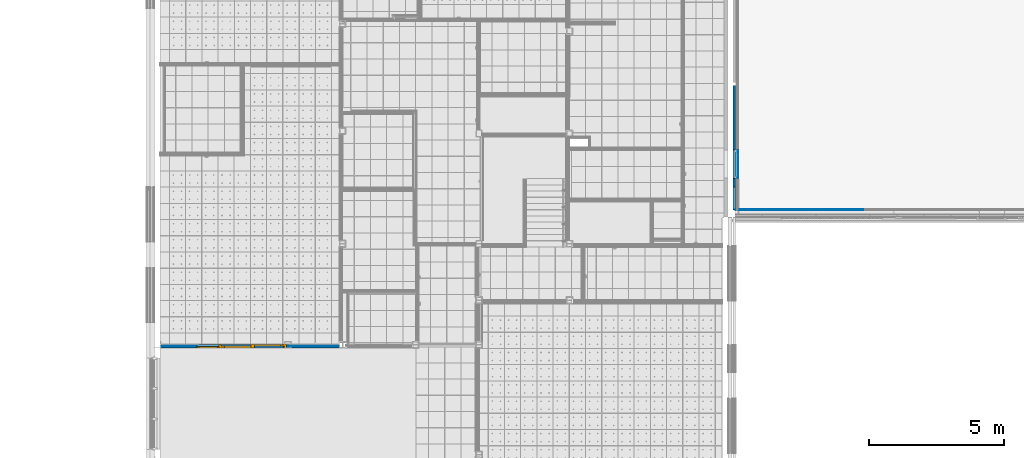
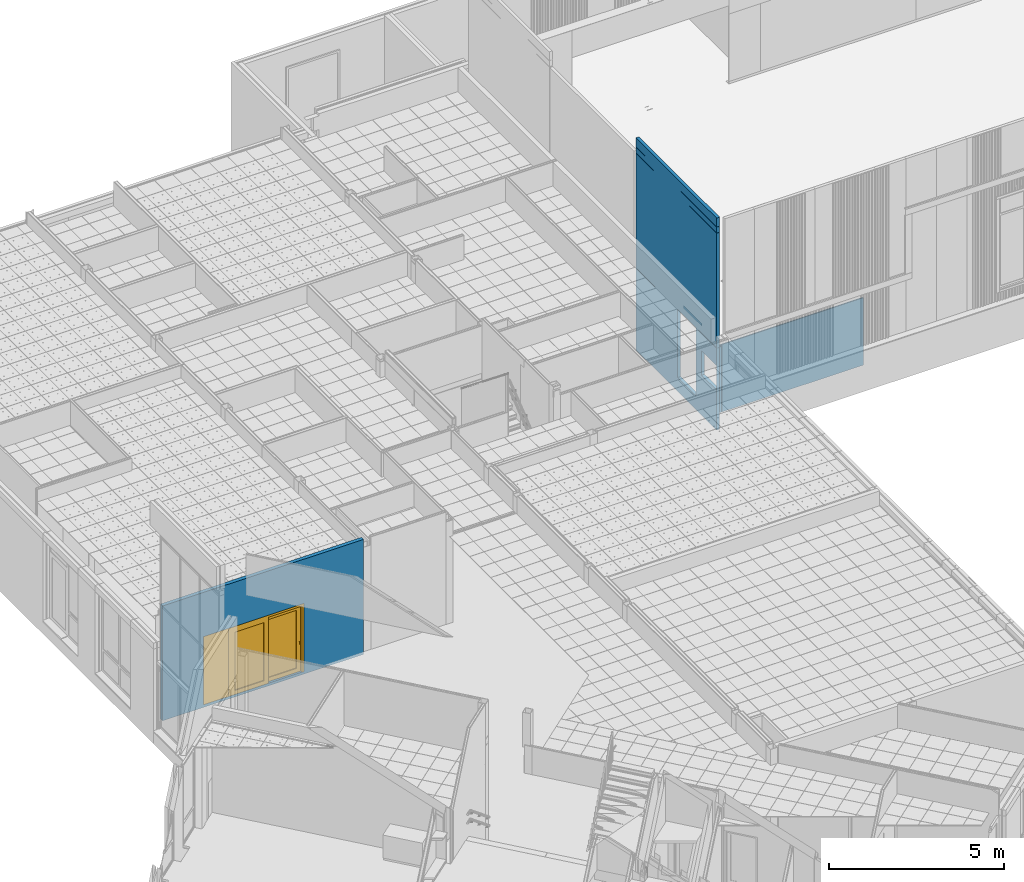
# One storey, part 44 of 338: 4 walls, 1 door, 1 window, 3 openings.
"""IFC2X3 building model written with IfcOpenShell, lengths in millimetres."""

from ifc_helpers import new_model, entity, si_unit, converted_unit, derived_unit, money_unit, direction, frame, origin_with_axes, place, context, subcontext, project, spatial, open_shell, faceted_brep, surface_model, material, type_object, element, fill, save


model = new_model("IFC2X3")

# Units and contexts
model_context = context("Model", 3, precision=0.01, world=origin_with_axes(), true_north=direction((0.0, 1.0)))
plan_context = context("Plan", 3, precision=0.01, world=origin_with_axes(), true_north=direction((0.0, 1.0)))
body_context = subcontext(model_context, "Body", "Model", "MODEL_VIEW")
ifc_project = project(units=[si_unit("LENGTHUNIT", "METRE", prefix="MILLI"), si_unit("AREAUNIT", "SQUARE_METRE"), si_unit("VOLUMEUNIT", "CUBIC_METRE"), converted_unit("PLANEANGLEUNIT", "DEGREE", entity("IfcPlaneAngleMeasure", 0.0174532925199), si_unit("PLANEANGLEUNIT", "RADIAN"), dimensions=[0, 0, 0, 0, 0, 0, 0]), money_unit("EUR"), converted_unit("TIMEUNIT", "Year", entity("IfcTimeMeasure", 31556926.0), si_unit("TIMEUNIT", "SECOND"), dimensions=[0, 0, 1, 0, 0, 0, 0]), si_unit("MASSUNIT", "GRAM", prefix="KILO"), si_unit("THERMODYNAMICTEMPERATUREUNIT", "DEGREE_CELSIUS"), si_unit("LUMINOUSINTENSITYUNIT", "LUMEN"), si_unit("ENERGYUNIT", "JOULE", prefix="MEGA"), derived_unit("THERMALCONDUCTANCEUNIT", [(si_unit("POWERUNIT", "WATT"), 1), (si_unit("LENGTHUNIT", "METRE"), -1), (si_unit("THERMODYNAMICTEMPERATUREUNIT", "KELVIN"), -1)]), derived_unit("SPECIFICHEATCAPACITYUNIT", [(si_unit("ENERGYUNIT", "JOULE"), 1), (si_unit("MASSUNIT", "GRAM", prefix="KILO"), -1), (si_unit("THERMODYNAMICTEMPERATUREUNIT", "KELVIN"), -1)]), derived_unit("MASSDENSITYUNIT", [(si_unit("MASSUNIT", "GRAM", prefix="KILO"), 1), (si_unit("VOLUMEUNIT", "CUBIC_METRE"), -1)])], contexts=[model_context, plan_context])

# Site, building, storey
site_placement = place(None, origin_with_axes())
site = spatial("IfcSite", under=ifc_project, at=site_placement, Name="Fortuinstraat Woensdrecht", CompositionType="ELEMENT")
building_placement = place(site_placement, origin_with_axes())
building = spatial("IfcBuilding", under=site, at=building_placement, Name="IKC Fortuna", CompositionType="ELEMENT")
storey_placement = place(building_placement, origin_with_axes())
storey = spatial("IfcBuildingStorey", under=building, at=storey_placement, Name="00 begane grond", CompositionType="ELEMENT", Elevation=0.0)

# Wall, opening
ifc_material_1 = material(Name="Steen - Kalkzandsteen C")
wall_type_1 = type_object("IfcWallType", Name="Steen - Kalkzandsteen C 100", PredefinedType="NOTDEFINED")
wall_1_placement = place(storey_placement, frame((35013.4270571, 25778.2966282, -485.0), z_axis=(0.0, 0.0, 1.0), x_axis=(0.0, -1.0, 0.0)))
wall_1 = element("IfcWall", 1, at=wall_1_placement, inside=storey, type_object=wall_type_1, material=ifc_material_1, Name="22_Wand_KZST", context=body_context, shape_type="Brep", body=[
    faceted_brep([(0.0, 0.0, 7065.8), (0.0, 30.050000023, 7065.8), (0.0, 38.5352813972, 7062.28528137), (0.0, 42.050000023, 7053.8), (0.0, 42.050000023, 6876.2), (0.0, 38.5352813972, 6867.71471863), (0.0, 30.050000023, 6864.2), (0.0, 0.0, 6864.2), (4610.99999998, 30.050000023, 7065.8), (4610.99999998, 0.0, 7065.8), (4610.99999998, 38.5352813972, 7062.28528137), (4610.99999998, 42.050000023, 7053.8), (4610.99999998, 42.050000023, 6876.2), (4610.99999998, 38.5352813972, 6867.71471863), (4610.99999998, 30.050000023, 6864.2), (4610.99999998, 0.0, 6864.2)], [[[0, 1, 2, 3, 4, 5, 6, 7]], [[8, 1, 0, 9]], [[10, 2, 1, 8]], [[11, 3, 2, 10]], [[12, 4, 3, 11]], [[13, 5, 4, 12]], [[14, 6, 5, 13]], [[15, 7, 6, 14]], [[15, 9, 0, 7]], [[10, 8, 9, 15, 14, 13, 12, 11]]]),
    faceted_brep([(2386.8, 0.0, 2852.0), (2386.8, 79.0, 2852.0), (2386.8, 100.000000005, 2852.0), (71.9999999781, 100.0, 2852.0), (71.9999999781, 0.0, 2852.0), (2386.8, 0.0, 485.0), (2386.8, 100.0, 485.0), (3434.8, 100.0, 485.0), (3434.8, 100.000000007, 2852.0), (4610.99999998, 100.00000001, 2852.0), (4610.99999998, 100.0, 0.0), (0.0, 100.0, 0.0), (0.0, 100.000000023, 6855.0), (4610.99999998, 100.000000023, 6855.0), (4610.99999998, 100.00000001, 2859.52932063), (71.9999999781, 100.0, 2859.52932063), (4591.99999998, 100.0, 1395.0), (4591.99999998, 100.0, 2237.0), (3749.99999998, 100.0, 2237.0), (3749.99999998, 100.0, 1395.0), (71.9999999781, 98.6462040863, 2859.0), (71.9999999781, 1.35379595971, 2859.0), (71.9999999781, 0.0, 2859.52932064), (4610.99999998, 0.0, 2859.52932064), (4610.99999998, 0.0, 6855.0), (0.0, 0.0, 6855.0), (0.0, 0.0, 0.0), (4610.99999998, 0.0, 0.0), (4610.99999998, 0.0, 2852.0), (3434.8, 0.0, 2852.0), (3434.8, 0.0, 485.0), (4591.99999998, 0.0, 1395.0), (3749.99999998, 0.0, 1395.0), (3749.99999998, 0.0, 2237.0), (4591.99999998, 0.0, 2237.0), (3434.8, 79.0, 2852.0), (4610.99999998, 1.35379595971, 2859.0), (4610.99999998, 98.6462040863, 2859.0)], [[[0, 1, 2, 3, 4]], [[1, 0, 5, 6, 2]], [[3, 2, 6, 7, 8, 9, 10, 11, 12, 13, 14, 15], [16, 17, 18, 19]], [[4, 3, 15, 20, 21, 22]], [[5, 0, 4, 22, 23, 24, 25, 26, 27, 28, 29, 30], [31, 32, 33, 34]], [[5, 30, 7, 6]], [[30, 29, 35, 8, 7]], [[35, 29, 28, 9, 8]], [[28, 27, 10, 9]], [[11, 10, 27, 26]], [[12, 11, 26, 25]], [[12, 25, 24, 13]], [[36, 37, 14, 13, 24, 23]], [[14, 37, 20, 15]], [[17, 16, 31, 34]], [[18, 17, 34, 33]], [[19, 18, 33, 32]], [[16, 19, 32, 31]], [[36, 21, 20, 37]], [[23, 22, 21, 36]]]),
    faceted_brep([(0.0, 47.950000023, 7053.8), (0.0, 51.4647186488, 7062.28528137), (0.0, 59.950000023, 7065.8), (0.0, 100.000000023, 7065.8), (0.0, 100.000000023, 6864.2), (0.0, 59.950000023, 6864.2), (0.0, 51.4647186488, 6867.71471863), (0.0, 47.950000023, 6876.2), (4610.99999998, 51.4647186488, 7062.28528137), (4610.99999998, 47.950000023, 7053.8), (4610.99999998, 59.950000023, 7065.8), (4610.99999998, 100.000000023, 7065.8), (4610.99999998, 100.000000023, 6864.2), (4610.99999998, 59.950000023, 6864.2), (4610.99999998, 51.4647186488, 6867.71471863), (4610.99999998, 47.950000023, 6876.2)], [[[0, 1, 2, 3, 4, 5, 6, 7]], [[8, 1, 0, 9]], [[10, 2, 1, 8]], [[10, 11, 3, 2]], [[11, 12, 4, 3]], [[13, 5, 4, 12]], [[14, 6, 5, 13]], [[15, 7, 6, 14]], [[9, 0, 7, 15]], [[14, 13, 12, 11, 10, 8, 9, 15]]]),
    faceted_brep([(4610.99999998, 100.0, 7381.72179229), (4610.99999998, 100.000000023, 7075.0), (0.0, 100.000000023, 7075.0), (0.0, 100.0, 7381.72179229), (4610.99999998, 0.0, 7381.72179229), (4610.99999998, 0.0, 7075.0), (0.0, 0.0, 7075.0), (0.0, 0.0, 7381.72179229)], [[[0, 1, 2, 3]], [[4, 5, 1, 0]], [[5, 6, 2, 1]], [[3, 2, 6, 7]], [[0, 3, 7, 4]], [[7, 6, 5, 4]]]),
])
opening_1_placement = place(wall_1_placement, frame((2910.8, 0.0, 485.0), z_axis=(0.0, 0.0, 1.0), x_axis=(1.0, 0.0, 0.0)))
element("IfcOpeningElement", 2, at=opening_1_placement, cuts=wall_1, Name="__Leeg", context=body_context, shape_type="Brep", body=[
    faceted_brep([(524.0, 200.0, 0.0), (524.0, 200.0, 2367.0), (524.0, 79.0, 2367.0), (524.0, 79.0, 0.0), (-524.0, 200.0, 0.0), (-524.0, 200.0, 2367.0), (-524.0, 79.0, 2367.0), (-524.0, 79.0, 0.0)], [[[0, 1, 2, 3]], [[0, 4, 5, 1]], [[1, 5, 6, 2]], [[3, 2, 6, 7]], [[4, 0, 3, 7]], [[5, 4, 7, 6]]]),
    faceted_brep([(524.0, -42.0, 2367.0), (524.0, -42.0, 0.0), (524.0, 79.0, 0.0), (524.0, 79.0, 2367.0), (-524.0, -42.0, 2367.0), (-524.0, -42.0, 0.0), (-524.0, 79.0, 0.0), (-524.0, 79.0, 2367.0)], [[[0, 1, 2, 3]], [[0, 4, 5, 1]], [[1, 5, 6, 2]], [[3, 2, 6, 7]], [[4, 0, 3, 7]], [[5, 4, 7, 6]]]),
])

# Wall
ifc_material_2 = material(Name="42 Vilton Isonic Wool")
wall_type_2 = type_object("IfcWallType", Name="42 Vilton Isonic Wool 33", PredefinedType="NOTDEFINED")
wall_2_placement = place(storey_placement, frame((35113.4270571, 21166.4346144, 90.0), z_axis=(0.0, 0.0, 1.0), x_axis=(1.0, 0.0, 0.0)))
element("IfcWall", 3, at=wall_2_placement, inside=storey, type_object=wall_type_2, material=ifc_material_2, Name="22_Wand_KZST", context=body_context, shape_type="Brep", body=[
    faceted_brep([(0.0, 0.86201386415, 2350.0), (66.0000000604, 0.86201386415, 2350.0), (66.0000000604, 0.0, 2350.0), (104.672189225, 0.0, 2350.0), (104.672189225, 33.0, 2350.0), (0.0, 33.0, 2350.0), (66.0000000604, 0.86201386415, 0.0), (0.0, 0.86201386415, 2284.5293206), (5.42908341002, 0.86201386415, 2286.65203777), (8.61427227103, 0.86201386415, 2293.20149022), (11.7542787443, 0.86201386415, 2332.39925489), (13.3468731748, 0.86201386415, 2335.67398111), (16.7383128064, 0.86201386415, 2337.0), (20.0000000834, 0.86201386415, 2337.0), (20.0000000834, 0.86201386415, 2277.0), (0.0, 0.86201386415, 2277.0), (0.0, 0.86201386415, 0.0), (66.0000000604, 0.0, 0.0), (4730.0, 0.0, 0.0), (4730.0, 0.0, 2350.0), (113.834985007, 0.0, 2350.0), (112.763141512, 0.0, 2347.0551342), (112.763141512, 33.0, 2347.0551342), (0.0, 33.0, 2284.5293206), (113.834985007, 33.0, 2350.0), (4730.0, 33.0, 2350.0), (4730.0, 33.0, 0.0), (0.0, 33.0, 0.0), (0.0, 33.0, 2277.0), (20.0000000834, 33.0, 2277.0), (20.0000000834, 33.0, 2337.0), (16.7383128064, 33.0, 2337.0), (13.3468731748, 33.0, 2335.67398111), (11.7542787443, 33.0, 2332.39925489), (8.61427227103, 33.0, 2293.20149022), (5.42908341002, 33.0, 2286.65203777)], [[[0, 1, 2, 3, 4, 5]], [[6, 1, 0, 7, 8, 9, 10, 11, 12, 13, 14, 15, 16]], [[17, 2, 1, 6]], [[3, 2, 17, 18, 19, 20, 21]], [[3, 21, 22, 4]], [[23, 5, 4, 22, 24, 25, 26, 27, 28, 29, 30, 31, 32, 33, 34, 35]], [[23, 7, 0, 5]], [[35, 8, 7, 23]], [[34, 9, 8, 35]], [[33, 10, 9, 34]], [[32, 11, 10, 33]], [[31, 12, 11, 32]], [[30, 13, 12, 31]], [[29, 14, 13, 30]], [[28, 15, 14, 29]], [[27, 16, 15, 28]], [[17, 6, 16, 27, 26, 18]], [[18, 26, 25, 19]], [[19, 25, 24, 20]], [[22, 21, 20, 24]]]),
])

# Wall, openings, window, door
wall_type_3 = type_object("IfcWallType", Name="KZ 120 120", PredefinedType="NOTDEFINED")
wall_3_placement = place(storey_placement, frame((13827.9349765, 16064.7966282, -90.0), z_axis=(0.0, 0.0, 1.0), x_axis=(1.0, 0.0, 0.0)))
wall_3 = element("IfcWall", 4, at=wall_3_placement, inside=storey, type_object=wall_type_3, material=ifc_material_1, Name="22_Wand_Binnenwand", context=body_context, shape_type="Brep", body=[
    faceted_brep([(6619.0, 120.0, 0.0), (0.0, 120.0, 0.0), (0.0, 120.0, 4000.0), (6619.0, 120.0, 4000.0), (2166.99126847, 120.0, 90.0), (4651.99126847, 120.0, 90.0), (4651.99126847, 120.0, 2457.0), (2166.99126847, 120.0, 2457.0), (1351.99126847, 120.0, 2457.0), (1351.99126847, 120.0, 90.0), (6619.0, 0.0, 0.0), (0.0, 0.0, 0.0), (0.0, 0.0, 4000.0), (6619.0, 0.0, 4000.0), (2166.99126847, 0.0, 90.0), (4651.99126847, 0.0, 90.0), (1351.99126847, 0.0, 90.0), (4651.99126847, 0.0, 2457.0), (2166.99126847, 0.0, 2457.0), (1351.99126847, 0.0, 2457.0)], [[[0, 1, 2, 3], [4, 5, 6, 7, 8, 9]], [[10, 11, 1, 0]], [[2, 1, 11, 12]], [[3, 2, 12, 13]], [[10, 0, 3, 13]], [[14, 15, 5, 4, 9, 16]], [[6, 5, 15, 17]], [[7, 6, 17, 18, 19, 8]], [[8, 19, 16, 9]], [[13, 12, 11, 10], [15, 14, 16, 19, 18, 17]]]),
])
opening_2_placement = place(wall_3_placement, frame((1759.49126847, 0.0, 90.0), z_axis=(0.0, 0.0, 1.0), x_axis=(1.0, 0.0, 0.0)))
opening_2 = element("IfcOpeningElement", 5, at=opening_2_placement, cuts=wall_3, Name="32_Raam_h.11", context=body_context, shape_type="Brep", body=[
    faceted_brep([(407.5, 120.0, 0.0), (407.5, 120.0, 2367.0), (407.5, -240.0, 2367.0), (407.5, -240.0, 0.0), (-407.5, 120.0, 0.0), (-407.5, 120.0, 2367.0), (-407.5, -240.0, 2367.0), (-407.5, -240.0, 0.0)], [[[0, 1, 2, 3]], [[0, 4, 5, 1]], [[1, 5, 6, 2]], [[3, 2, 6, 7]], [[4, 0, 3, 7]], [[5, 4, 7, 6]]]),
])
opening_3_placement = place(wall_3_placement, frame((3409.49126847, 0.0, 90.0), z_axis=(0.0, 0.0, 1.0), x_axis=(1.0, 0.0, 0.0)))
opening_3 = element("IfcOpeningElement", 6, at=opening_3_placement, cuts=wall_3, Name="32_Deur_h.03", context=body_context, shape_type="Brep", body=[
    faceted_brep([(-1242.5, 120.0, 2367.0), (-1242.5, 120.0, 0.0), (-1242.5, -240.0, 0.0), (-1242.5, -240.0, 2367.0), (1242.5, 120.0, 2367.0), (1242.5, 120.0, 0.0), (1242.5, -240.0, 0.0), (1242.5, -240.0, 2367.0)], [[[0, 1, 2, 3]], [[0, 4, 5, 1]], [[1, 5, 6, 2]], [[3, 2, 6, 7]], [[4, 0, 3, 7]], [[5, 4, 7, 6]]]),
])
window_style = type_object("IfcWindowStyle", Name="R1 25", ConstructionType="NOTDEFINED", OperationType="SINGLE_PANEL", ParameterTakesPrecedence=False, Sizeable=False)
window_placement = place(opening_2_placement, frame((-407.5, 0.0, 0.0), z_axis=(0.0, 0.0, 1.0), x_axis=(1.0, 0.0, 0.0)))
window = element("IfcWindow", 7, at=window_placement, inside=storey, type_object=window_style, Name="32_Raam_h.11", ObjectType="WINDOW", OverallHeight=2367.0, OverallWidth=815.0, context=body_context, shape_type="SurfaceModel", body=[
    faceted_brep([(67.0, 0.0, 2300.0), (67.0, 62.0, 2300.0), (0.0, 62.0, 2300.0), (0.0, 0.0, 2300.0), (67.0, 0.0, 67.0), (67.0, 62.0, 67.0), (0.0, 62.0, 67.0), (0.0, 0.0, 67.0)], [[[0, 1, 2, 3]], [[4, 5, 1, 0]], [[1, 5, 6, 2]], [[3, 2, 6, 7]], [[0, 3, 7, 4]], [[7, 6, 5, 4]]]),
    faceted_brep([(748.0, 0.0, 67.0), (748.0, 62.0, 67.0), (815.0, 62.0, 67.0), (815.0, 0.0, 67.0), (748.0, 0.0, 2300.0), (748.0, 62.0, 2300.0), (815.0, 62.0, 2300.0), (815.0, 0.0, 2300.0)], [[[0, 1, 2, 3]], [[4, 5, 1, 0]], [[1, 5, 6, 2]], [[3, 2, 6, 7]], [[0, 3, 7, 4]], [[7, 6, 5, 4]]]),
    faceted_brep([(67.0, 0.0, 67.0), (67.0, 62.0, 67.0), (0.0, 62.0, 67.0), (0.0, 0.0, 67.0), (748.0, 0.0, 67.0), (748.0, 62.0, 67.0), (815.0, 62.0, 67.0), (815.0, 62.0, 0.0), (0.0, 62.0, 0.0), (0.0, 0.0, 0.0), (815.0, 0.0, 0.0), (815.0, 0.0, 67.0)], [[[0, 1, 2, 3]], [[4, 5, 1, 0]], [[1, 5, 6, 7, 8, 2]], [[3, 2, 8, 9]], [[0, 3, 9, 10, 11, 4]], [[11, 6, 5, 4]], [[10, 7, 6, 11]], [[9, 8, 7, 10]]]),
    faceted_brep([(748.0, 0.0, 2300.0), (748.0, 62.0, 2300.0), (815.0, 62.0, 2300.0), (815.0, 0.0, 2300.0), (67.0, 0.0, 2300.0), (67.0, 62.0, 2300.0), (0.0, 62.0, 2300.0), (0.0, 62.0, 2367.0), (815.0, 62.0, 2367.0), (815.0, 0.0, 2367.0), (0.0, 0.0, 2367.0), (0.0, 0.0, 2300.0)], [[[0, 1, 2, 3]], [[4, 5, 1, 0]], [[1, 5, 6, 7, 8, 2]], [[3, 2, 8, 9]], [[0, 3, 9, 10, 11, 4]], [[11, 6, 5, 4]], [[10, 7, 6, 11]], [[9, 8, 7, 10]]]),
    surface_model("IfcShellBasedSurfaceModel", [(67.0, -2.0, 67.0), (748.0, -2.0, 67.0), (748.0, -2.0, 2300.0), (67.0, -2.0, 2300.0)], [open_shell([[[0, 1, 2, 3]]])]),
    surface_model("IfcShellBasedSurfaceModel", [(67.0, 18.0, 67.0), (67.0, 18.0, 2300.0), (748.0, 18.0, 2300.0), (748.0, 18.0, 67.0)], [open_shell([[[0, 1, 2, 3]]])]),
])
fill(opening_2, window)
door_style = type_object("IfcDoorStyle", Name="DSn 25", ConstructionType="NOTDEFINED", OperationType="USERDEFINED", ParameterTakesPrecedence=False, Sizeable=False)
door_placement = place(opening_3_placement, frame((1242.5, 0.0, 0.0), z_axis=(0.0, 0.0, 1.0), x_axis=(-1.0, 0.0, 0.0)))
door = element("IfcDoor", 8, at=door_placement, inside=storey, type_object=door_style, Name="32_Deur_h.03", ObjectType="DOOR", OverallHeight=2367.0, OverallWidth=2485.0, context=body_context, shape_type="SurfaceModel", body=[
    faceted_brep([(0.0, 0.0, 0.0), (67.0, 0.0, 0.0), (67.0, -139.0, 0.0), (0.0, -139.0, 0.0), (0.0, 0.0, 2300.0), (67.0, 0.0, 2300.0), (67.0, -139.0, 2300.0), (0.0, -139.0, 2300.0)], [[[0, 1, 2, 3]], [[0, 4, 5, 1]], [[1, 5, 6, 2]], [[3, 2, 6, 7]], [[4, 0, 3, 7]], [[5, 4, 7, 6]]]),
    faceted_brep([(2485.0, 0.0, 0.0), (2485.0, 0.0, 2300.0), (2485.0, -139.0, 2300.0), (2485.0, -139.0, 0.0), (2418.0, 0.0, 0.0), (2418.0, 0.0, 2300.0), (2418.0, -139.0, 2300.0), (2418.0, -139.0, 0.0)], [[[0, 1, 2, 3]], [[0, 4, 5, 1]], [[1, 5, 6, 2]], [[3, 2, 6, 7]], [[4, 0, 3, 7]], [[5, 4, 7, 6]]]),
    faceted_brep([(0.0, 0.0, 2367.0), (0.0, 0.0, 2300.0), (0.0, -139.0, 2300.0), (0.0, -139.0, 2367.0), (2485.0, 0.0, 2367.0), (2485.0, 0.0, 2300.0), (2418.0, 0.0, 2300.0), (67.0, 0.0, 2300.0), (67.0, -139.0, 2300.0), (2418.0, -139.0, 2300.0), (2485.0, -139.0, 2300.0), (2485.0, -139.0, 2367.0)], [[[0, 1, 2, 3]], [[0, 4, 5, 6, 7, 1]], [[1, 7, 8, 2]], [[3, 2, 8, 9, 10, 11]], [[4, 0, 3, 11]], [[5, 4, 11, 10]], [[6, 5, 10, 9]], [[7, 6, 9, 8]]]),
    faceted_brep([(2418.0, 0.0, 139.0), (2418.0, -64.5, 139.0), (2279.0, -64.5, 139.0), (2279.0, 0.0, 139.0), (2418.0, 0.0, 2161.0), (2418.0, -64.5, 2161.0), (2279.0, -64.5, 2161.0), (2279.0, 0.0, 2161.0)], [[[0, 1, 2, 3]], [[4, 5, 1, 0]], [[1, 5, 6, 2]], [[3, 2, 6, 7]], [[0, 3, 7, 4]], [[7, 6, 5, 4]]]),
    faceted_brep([(1173.0, 0.0, 139.0), (1173.0, -64.5, 139.0), (1173.0, -64.5, 2161.0), (1173.0, 0.0, 2161.0), (1312.0, 0.0, 139.0), (1312.0, -64.5, 139.0), (1312.0, -64.5, 2161.0), (1312.0, 0.0, 2161.0)], [[[0, 1, 2, 3]], [[4, 5, 1, 0]], [[1, 5, 6, 2]], [[3, 2, 6, 7]], [[0, 3, 7, 4]], [[7, 6, 5, 4]]]),
    faceted_brep([(2418.0, 0.0, 0.0), (2418.0, -64.5, 0.0), (1173.0, -64.5, 0.0), (1173.0, 0.0, 0.0), (2418.0, 0.0, 139.0), (2418.0, -64.5, 139.0), (2279.0, -64.5, 139.0), (1312.0, -64.5, 139.0), (1173.0, -64.5, 139.0), (1173.0, 0.0, 139.0), (1312.0, 0.0, 139.0), (2279.0, 0.0, 139.0)], [[[0, 1, 2, 3]], [[4, 5, 1, 0]], [[1, 5, 6, 7, 8, 2]], [[3, 2, 8, 9]], [[0, 3, 9, 10, 11, 4]], [[11, 6, 5, 4]], [[10, 7, 6, 11]], [[9, 8, 7, 10]]]),
    faceted_brep([(2418.0, 0.0, 2300.0), (2418.0, -64.5, 2300.0), (2418.0, -64.5, 2161.0), (2418.0, 0.0, 2161.0), (1173.0, 0.0, 2300.0), (1173.0, -64.5, 2300.0), (1173.0, -64.5, 2161.0), (1312.0, -64.5, 2161.0), (2279.0, -64.5, 2161.0), (2279.0, 0.0, 2161.0), (1312.0, 0.0, 2161.0), (1173.0, 0.0, 2161.0)], [[[0, 1, 2, 3]], [[4, 5, 1, 0]], [[1, 5, 6, 7, 8, 2]], [[3, 2, 8, 9]], [[0, 3, 9, 10, 11, 4]], [[11, 6, 5, 4]], [[10, 7, 6, 11]], [[9, 8, 7, 10]]]),
    surface_model("IfcShellBasedSurfaceModel", [(2279.0, -26.25, 139.0), (1312.0, -26.25, 139.0), (1312.0, -26.25, 2161.0), (2279.0, -26.25, 2161.0)], [open_shell([[[0, 1, 2, 3]]])]),
    surface_model("IfcShellBasedSurfaceModel", [(2279.0, -38.25, 139.0), (2279.0, -38.25, 2161.0), (1312.0, -38.25, 2161.0), (1312.0, -38.25, 139.0)], [open_shell([[[0, 1, 2, 3]]])]),
    faceted_brep([(132.0, -134.0, 965.0), (132.0, -134.0, 1035.0), (132.0, -144.0, 1035.0), (132.0, -144.0, 965.0), (102.0, -134.0, 965.0), (102.0, -134.0, 1035.0), (102.0, -144.0, 1035.0), (102.0, -144.0, 965.0)], [[[0, 1, 2, 3]], [[0, 4, 5, 1]], [[1, 5, 6, 2]], [[3, 2, 6, 7]], [[4, 0, 3, 7]], [[5, 4, 7, 6]]]),
    faceted_brep([(118.365632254, -144.0, 1006.86549696), (119.678784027, -144.0, 1006.46715673), (120.888991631, -144.0, 1005.82028729), (121.949747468, -144.0, 1004.94974747), (122.820287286, -144.0, 1003.88899163), (123.467156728, -144.0, 1002.67878403), (123.865496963, -144.0, 1001.36563225), (124.0, -144.0, 1000.0), (123.865496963, -144.0, 998.634367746), (123.467156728, -144.0, 997.321215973), (122.820287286, -144.0, 996.111008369), (121.949747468, -144.0, 995.050252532), (120.888991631, -144.0, 994.179712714), (119.678784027, -144.0, 993.532843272), (118.365632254, -144.0, 993.134503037), (117.0, -144.0, 993.0), (115.634367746, -144.0, 993.134503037), (114.321215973, -144.0, 993.532843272), (113.111008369, -144.0, 994.179712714), (112.050252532, -144.0, 995.050252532), (111.179712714, -144.0, 996.111008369), (110.532843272, -144.0, 997.321215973), (110.134503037, -144.0, 998.634367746), (110.0, -144.0, 1000.0), (110.134503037, -144.0, 1001.36563225), (110.532843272, -144.0, 1002.67878403), (111.179712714, -144.0, 1003.88899163), (112.050252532, -144.0, 1004.94974747), (113.111008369, -144.0, 1005.82028729), (114.321215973, -144.0, 1006.46715673), (115.634367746, -144.0, 1006.86549696), (117.0, -144.0, 1007.0), (118.365632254, -159.0, 1006.86549696), (119.678784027, -159.0, 1006.46715673), (120.888991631, -159.0, 1005.82028729), (121.949747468, -159.0, 1004.94974747), (122.820287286, -159.0, 1003.88899163), (123.467156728, -159.0, 1002.67878403), (123.865496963, -159.0, 1001.36563225), (124.0, -159.0, 1000.0), (123.865496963, -159.0, 998.634367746), (123.467156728, -159.0, 997.321215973), (122.820287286, -159.0, 996.111008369), (121.949747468, -159.0, 995.050252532), (120.888991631, -159.0, 994.179712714), (119.678784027, -159.0, 993.532843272), (118.365632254, -159.0, 993.134503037), (117.0, -159.0, 993.0), (115.634367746, -159.0, 993.134503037), (114.321215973, -159.0, 993.532843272), (113.111008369, -159.0, 994.179712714), (112.050252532, -159.0, 995.050252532), (111.179712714, -159.0, 996.111008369), (110.532843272, -159.0, 997.321215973), (110.134503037, -159.0, 998.634367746), (110.0, -159.0, 1000.0), (110.134503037, -159.0, 1001.36563225), (110.532843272, -159.0, 1002.67878403), (111.179712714, -159.0, 1003.88899163), (112.050252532, -159.0, 1004.94974747), (113.111008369, -159.0, 1005.82028729), (114.321215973, -159.0, 1006.46715673), (115.634367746, -159.0, 1006.86549696), (117.0, -159.0, 1007.0)], [[[0, 1, 2, 3, 4, 5, 6, 7, 8, 9, 10, 11, 12, 13, 14, 15, 16, 17, 18, 19, 20, 21, 22, 23, 24, 25, 26, 27, 28, 29, 30, 31]], [[1, 0, 32, 33]], [[2, 1, 33, 34]], [[3, 2, 34, 35]], [[4, 3, 35, 36]], [[5, 4, 36, 37]], [[6, 5, 37, 38]], [[7, 6, 38, 39]], [[8, 7, 39, 40]], [[9, 8, 40, 41]], [[10, 9, 41, 42]], [[11, 10, 42, 43]], [[12, 11, 43, 44]], [[13, 12, 44, 45]], [[14, 13, 45, 46]], [[15, 14, 46, 47]], [[16, 15, 47, 48]], [[17, 16, 48, 49]], [[18, 17, 49, 50]], [[19, 18, 50, 51]], [[20, 19, 51, 52]], [[21, 20, 52, 53]], [[22, 21, 53, 54]], [[23, 22, 54, 55]], [[24, 23, 55, 56]], [[25, 24, 56, 57]], [[26, 25, 57, 58]], [[27, 26, 58, 59]], [[28, 27, 59, 60]], [[29, 28, 60, 61]], [[30, 29, 61, 62]], [[31, 30, 62, 63]], [[0, 31, 63, 32]], [[32, 63, 62, 61, 60, 59, 58, 57, 56, 55, 54, 53, 52, 51, 50, 49, 48, 47, 46, 45, 44, 43, 42, 41, 40, 39, 38, 37, 36, 35, 34, 33]]]),
    faceted_brep([(127.0, -159.0, 990.0), (127.0, -159.0, 1010.0), (127.0, -169.0, 1010.0), (127.0, -169.0, 990.0), (107.0, -159.0, 990.0), (107.0, -159.0, 1010.0), (107.0, -169.0, 1010.0), (107.0, -169.0, 990.0)], [[[0, 1, 2, 3]], [[0, 4, 5, 1]], [[1, 5, 6, 2]], [[3, 2, 6, 7]], [[4, 0, 3, 7]], [[5, 4, 7, 6]]]),
    faceted_brep([(127.0, -169.0, 990.0), (107.0, -169.0, 990.0), (112.0, -167.0, 965.0), (122.0, -167.0, 965.0), (127.0, -159.0, 990.0), (107.0, -159.0, 990.0), (112.0, -163.0, 965.0), (122.0, -163.0, 965.0)], [[[0, 1, 2, 3]], [[0, 4, 5, 1]], [[1, 5, 6, 2]], [[3, 2, 6, 7]], [[4, 0, 3, 7]], [[5, 4, 7, 6]]]),
    faceted_brep([(127.0, -169.0, 1010.0), (122.0, -167.0, 1035.0), (112.0, -167.0, 1035.0), (107.0, -169.0, 1010.0), (127.0, -159.0, 1010.0), (122.0, -163.0, 1035.0), (112.0, -163.0, 1035.0), (107.0, -159.0, 1010.0)], [[[0, 1, 2, 3]], [[4, 5, 1, 0]], [[1, 5, 6, 2]], [[3, 2, 6, 7]], [[0, 3, 7, 4]], [[7, 6, 5, 4]]]),
    faceted_brep([(132.0, -69.5, 965.0), (132.0, -59.5, 965.0), (132.0, -59.5, 1035.0), (132.0, -69.5, 1035.0), (102.0, -69.5, 965.0), (102.0, -59.5, 965.0), (102.0, -59.5, 1035.0), (102.0, -69.5, 1035.0)], [[[0, 1, 2, 3]], [[4, 5, 1, 0]], [[1, 5, 6, 2]], [[3, 2, 6, 7]], [[0, 3, 7, 4]], [[7, 6, 5, 4]]]),
    faceted_brep([(118.365632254, -59.5, 1006.86549696), (117.0, -59.5, 1007.0), (115.634367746, -59.5, 1006.86549696), (114.321215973, -59.5, 1006.46715673), (113.111008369, -59.5, 1005.82028729), (112.050252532, -59.5, 1004.94974747), (111.179712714, -59.5, 1003.88899163), (110.532843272, -59.5, 1002.67878403), (110.134503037, -59.5, 1001.36563225), (110.0, -59.5, 1000.0), (110.134503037, -59.5, 998.634367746), (110.532843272, -59.5, 997.321215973), (111.179712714, -59.5, 996.111008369), (112.050252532, -59.5, 995.050252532), (113.111008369, -59.5, 994.179712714), (114.321215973, -59.5, 993.532843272), (115.634367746, -59.5, 993.134503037), (117.0, -59.5, 993.0), (118.365632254, -59.5, 993.134503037), (119.678784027, -59.5, 993.532843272), (120.888991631, -59.5, 994.179712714), (121.949747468, -59.5, 995.050252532), (122.820287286, -59.5, 996.111008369), (123.467156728, -59.5, 997.321215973), (123.865496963, -59.5, 998.634367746), (124.0, -59.5, 1000.0), (123.865496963, -59.5, 1001.36563225), (123.467156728, -59.5, 1002.67878403), (122.820287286, -59.5, 1003.88899163), (121.949747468, -59.5, 1004.94974747), (120.888991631, -59.5, 1005.82028729), (119.678784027, -59.5, 1006.46715673), (118.365632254, -44.5, 1006.86549696), (117.0, -44.5, 1007.0), (115.634367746, -44.5, 1006.86549696), (114.321215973, -44.5, 1006.46715673), (113.111008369, -44.5, 1005.82028729), (112.050252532, -44.5, 1004.94974747), (111.179712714, -44.5, 1003.88899163), (110.532843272, -44.5, 1002.67878403), (110.134503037, -44.5, 1001.36563225), (110.0, -44.5, 1000.0), (110.134503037, -44.5, 998.634367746), (110.532843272, -44.5, 997.321215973), (111.179712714, -44.5, 996.111008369), (112.050252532, -44.5, 995.050252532), (113.111008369, -44.5, 994.179712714), (114.321215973, -44.5, 993.532843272), (115.634367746, -44.5, 993.134503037), (117.0, -44.5, 993.0), (118.365632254, -44.5, 993.134503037), (119.678784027, -44.5, 993.532843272), (120.888991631, -44.5, 994.179712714), (121.949747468, -44.5, 995.050252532), (122.820287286, -44.5, 996.111008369), (123.467156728, -44.5, 997.321215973), (123.865496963, -44.5, 998.634367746), (124.0, -44.5, 1000.0), (123.865496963, -44.5, 1001.36563225), (123.467156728, -44.5, 1002.67878403), (122.820287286, -44.5, 1003.88899163), (121.949747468, -44.5, 1004.94974747), (120.888991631, -44.5, 1005.82028729), (119.678784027, -44.5, 1006.46715673)], [[[0, 1, 2, 3, 4, 5, 6, 7, 8, 9, 10, 11, 12, 13, 14, 15, 16, 17, 18, 19, 20, 21, 22, 23, 24, 25, 26, 27, 28, 29, 30, 31]], [[0, 32, 33, 1]], [[1, 33, 34, 2]], [[2, 34, 35, 3]], [[3, 35, 36, 4]], [[4, 36, 37, 5]], [[5, 37, 38, 6]], [[6, 38, 39, 7]], [[7, 39, 40, 8]], [[8, 40, 41, 9]], [[9, 41, 42, 10]], [[10, 42, 43, 11]], [[11, 43, 44, 12]], [[12, 44, 45, 13]], [[13, 45, 46, 14]], [[14, 46, 47, 15]], [[15, 47, 48, 16]], [[16, 48, 49, 17]], [[17, 49, 50, 18]], [[18, 50, 51, 19]], [[19, 51, 52, 20]], [[20, 52, 53, 21]], [[21, 53, 54, 22]], [[22, 54, 55, 23]], [[23, 55, 56, 24]], [[24, 56, 57, 25]], [[25, 57, 58, 26]], [[26, 58, 59, 27]], [[27, 59, 60, 28]], [[28, 60, 61, 29]], [[29, 61, 62, 30]], [[30, 62, 63, 31]], [[31, 63, 32, 0]], [[32, 63, 62, 61, 60, 59, 58, 57, 56, 55, 54, 53, 52, 51, 50, 49, 48, 47, 46, 45, 44, 43, 42, 41, 40, 39, 38, 37, 36, 35, 34, 33]]]),
    faceted_brep([(127.0, -44.5, 990.0), (127.0, -34.5, 990.0), (127.0, -34.5, 1010.0), (127.0, -44.5, 1010.0), (107.0, -44.5, 990.0), (107.0, -34.5, 990.0), (107.0, -34.5, 1010.0), (107.0, -44.5, 1010.0)], [[[0, 1, 2, 3]], [[4, 5, 1, 0]], [[1, 5, 6, 2]], [[3, 2, 6, 7]], [[0, 3, 7, 4]], [[7, 6, 5, 4]]]),
    faceted_brep([(127.0, -34.5, 990.0), (122.0, -36.5, 965.0), (112.0, -36.5, 965.0), (107.0, -34.5, 990.0), (127.0, -44.5, 990.0), (122.0, -40.5, 965.0), (112.0, -40.5, 965.0), (107.0, -44.5, 990.0)], [[[0, 1, 2, 3]], [[4, 5, 1, 0]], [[1, 5, 6, 2]], [[3, 2, 6, 7]], [[0, 3, 7, 4]], [[7, 6, 5, 4]]]),
    faceted_brep([(127.0, -34.5, 1010.0), (107.0, -34.5, 1010.0), (112.0, -36.5, 1035.0), (122.0, -36.5, 1035.0), (127.0, -44.5, 1010.0), (107.0, -44.5, 1010.0), (112.0, -40.5, 1035.0), (122.0, -40.5, 1035.0)], [[[0, 1, 2, 3]], [[0, 4, 5, 1]], [[1, 5, 6, 2]], [[3, 2, 6, 7]], [[4, 0, 3, 7]], [[5, 4, 7, 6]]]),
    faceted_brep([(1312.0, -69.5, 139.0), (1312.0, -134.0, 139.0), (1173.0, -134.0, 139.0), (1173.0, -69.5, 139.0), (1312.0, -69.5, 2161.0), (1312.0, -134.0, 2161.0), (1173.0, -134.0, 2161.0), (1173.0, -69.5, 2161.0)], [[[0, 1, 2, 3]], [[4, 5, 1, 0]], [[1, 5, 6, 2]], [[3, 2, 6, 7]], [[0, 3, 7, 4]], [[7, 6, 5, 4]]]),
    faceted_brep([(67.0, -69.5, 139.0), (67.0, -134.0, 139.0), (67.0, -134.0, 2161.0), (67.0, -69.5, 2161.0), (206.0, -69.5, 139.0), (206.0, -134.0, 139.0), (206.0, -134.0, 2161.0), (206.0, -69.5, 2161.0)], [[[0, 1, 2, 3]], [[4, 5, 1, 0]], [[1, 5, 6, 2]], [[3, 2, 6, 7]], [[0, 3, 7, 4]], [[7, 6, 5, 4]]]),
    faceted_brep([(1312.0, -69.5, 0.0), (1312.0, -134.0, 0.0), (67.0, -134.0, 0.0), (67.0, -69.5, 0.0), (1312.0, -69.5, 139.0), (1312.0, -134.0, 139.0), (1173.0, -134.0, 139.0), (206.0, -134.0, 139.0), (67.0, -134.0, 139.0), (67.0, -69.5, 139.0), (206.0, -69.5, 139.0), (1173.0, -69.5, 139.0)], [[[0, 1, 2, 3]], [[4, 5, 1, 0]], [[1, 5, 6, 7, 8, 2]], [[3, 2, 8, 9]], [[0, 3, 9, 10, 11, 4]], [[11, 6, 5, 4]], [[10, 7, 6, 11]], [[9, 8, 7, 10]]]),
    faceted_brep([(1312.0, -69.5, 2300.0), (1312.0, -134.0, 2300.0), (1312.0, -134.0, 2161.0), (1312.0, -69.5, 2161.0), (67.0, -69.5, 2300.0), (67.0, -134.0, 2300.0), (67.0, -134.0, 2161.0), (206.0, -134.0, 2161.0), (1173.0, -134.0, 2161.0), (1173.0, -69.5, 2161.0), (206.0, -69.5, 2161.0), (67.0, -69.5, 2161.0)], [[[0, 1, 2, 3]], [[4, 5, 1, 0]], [[1, 5, 6, 7, 8, 2]], [[3, 2, 8, 9]], [[0, 3, 9, 10, 11, 4]], [[11, 6, 5, 4]], [[10, 7, 6, 11]], [[9, 8, 7, 10]]]),
    surface_model("IfcShellBasedSurfaceModel", [(1173.0, -95.75, 139.0), (206.0, -95.75, 139.0), (206.0, -95.75, 2161.0), (1173.0, -95.75, 2161.0)], [open_shell([[[0, 1, 2, 3]]])]),
    surface_model("IfcShellBasedSurfaceModel", [(1173.0, -107.75, 139.0), (1173.0, -107.75, 2161.0), (206.0, -107.75, 2161.0), (206.0, -107.75, 139.0)], [open_shell([[[0, 1, 2, 3]]])]),
])
fill(opening_3, door)

# Wall
ifc_material_3 = material(Name="Hout - Multiplex 90")
wall_type_4 = type_object("IfcWallType", Name="Hout - Multiplex 90 15", PredefinedType="NOTDEFINED")
wall_4_placement = place(storey_placement, frame((35207.9270571, 22350.5135484, 2367.0), z_axis=(0.0, 0.0, 1.0), x_axis=(0.0, 1.0, 0.0)))
element("IfcWall", 9, at=wall_4_placement, inside=storey, type_object=wall_type_4, material=ifc_material_3, Name="22_Wand_Vilton Isonic Wool", context=body_context, shape_type="Brep", body=[
    faceted_brep([(0.0, 0.0, 73.0000000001), (1034.0, 0.0, 73.0000000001), (1034.0, 15.0, 73.0000000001), (0.0, 15.0, 73.0000000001), (0.0, 0.0, 0.0), (1034.0, 0.0, 0.0), (1034.0, 15.0, 0.0), (0.0, 15.0, 0.0)], [[[0, 1, 2, 3]], [[4, 5, 1, 0]], [[2, 1, 5, 6]], [[3, 2, 6, 7]], [[4, 0, 3, 7]], [[7, 6, 5, 4]]]),
])

save(model, "model.ifc")
